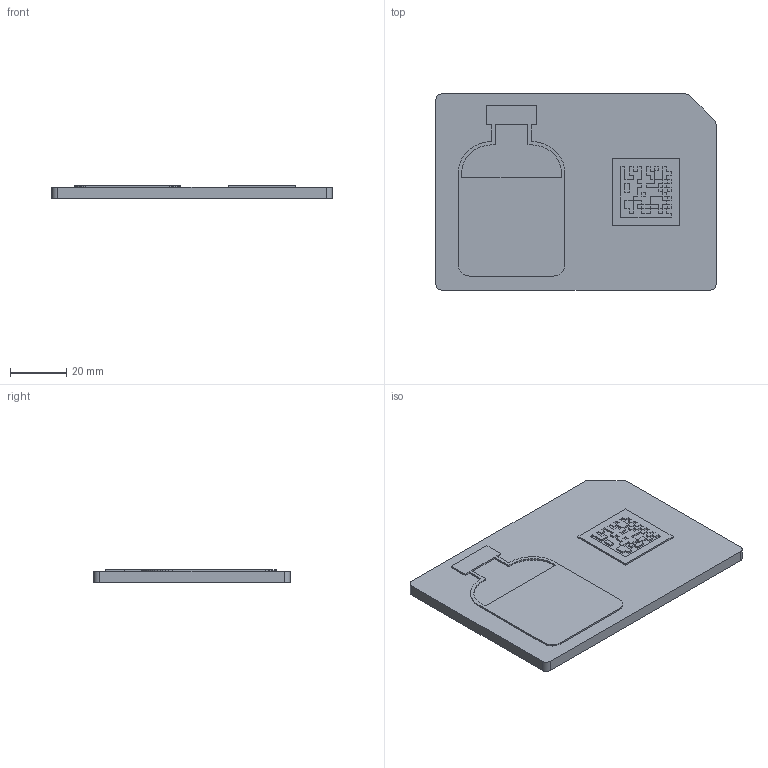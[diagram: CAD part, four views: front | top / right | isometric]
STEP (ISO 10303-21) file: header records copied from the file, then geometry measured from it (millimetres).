
FILE_DESCRIPTION(('Open CASCADE Model'),'2;1');
FILE_NAME('Open CASCADE Shape Model','2026-10-14T18:09:56',('Author'),( 'Open CASCADE'),'Open CASCADE STEP processor 7.9','Open CASCADE 7.9' ,'Unknown');
FILE_SCHEMA(('AUTOMOTIVE_DESIGN { 1 0 10303 214 1 1 1 1 }'));
Length unit declared in the file: millimetre
Products named in the file (3): SN-4803; SN-4803_base_dark; SN-4803_features_red
Assembly tree (2 placements, depth 2):
  SN-4803
    SN-4803_base_dark
    SN-4803_features_red
Bounding box: 100 x 70 x 4.6 mm (x, y, z)
Volume: 28935.9 mm3; surface area: 20460.1 mm2
Topology: 4 solids, 4 shells, 497 faces, 1410 edges, 940 vertices
Faces by surface type: plane 492, cylinder 5
Entity records: 33806 total; most frequent: CARTESIAN_POINT 6142, DIRECTION 4778, LINE 3750, VECTOR 3750, ORIENTED_EDGE 2820, PCURVE 2820, DEFINITIONAL_REPRESENTATION 2820, EDGE_CURVE 1410
